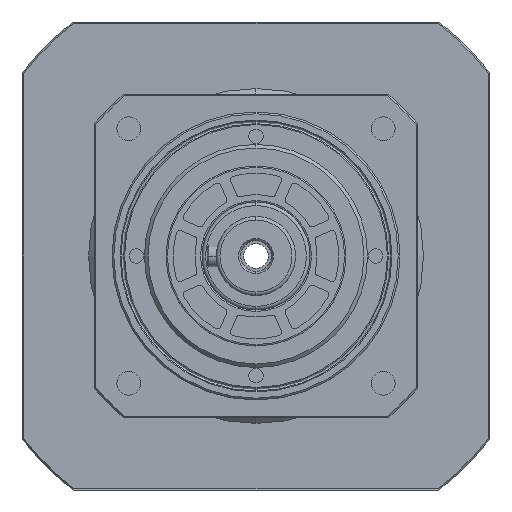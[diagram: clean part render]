
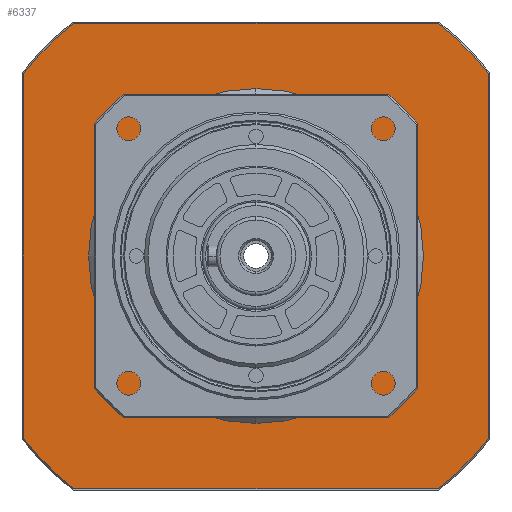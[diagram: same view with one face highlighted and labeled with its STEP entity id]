
A CAD part, left-side view. The second image highlights one B-rep face of the part: STEP entity #6337.
In plain terms, the highlighted planar face has unit normal (-1, 0, 0).
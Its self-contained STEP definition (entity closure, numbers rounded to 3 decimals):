
#976 = FACE_OUTER_BOUND ( 'NONE', #9127, .T. ) ;
#983 = FACE_BOUND ( 'NONE', #8882, .T. ) ;
#1189 = DIRECTION ( 'NONE',  ( 0., 0., -1. ) ) ;
#1190 = DIRECTION ( 'NONE',  ( -1., 0., 0. ) ) ;
#1196 = CARTESIAN_POINT ( 'NONE',  ( 125.175, 2.422, 0. ) ) ;
#1200 = DIRECTION ( 'NONE',  ( 0., -1., 0. ) ) ;
#1216 = CARTESIAN_POINT ( 'NONE',  ( 125.175, 2.422, 0. ) ) ;
#1219 = DIRECTION ( 'NONE',  ( -1., 0., 0. ) ) ;
#1222 = DIRECTION ( 'NONE',  ( 0., 0., -1. ) ) ;
#1248 = CARTESIAN_POINT ( 'NONE',  ( 125.175, 41.422, 64.6 ) ) ;
#1251 = DIRECTION ( 'NONE',  ( 0., 1., 0. ) ) ;
#1274 = DIRECTION ( 'NONE',  ( -1., 0., 0. ) ) ;
#1275 = CARTESIAN_POINT ( 'NONE',  ( 125.175, 41.422, -64.6 ) ) ;
#1276 = CARTESIAN_POINT ( 'NONE',  ( 125.175, 2.422, 0. ) ) ;
#1324 = DIRECTION ( 'NONE',  ( 0., 0., 1. ) ) ;
#1325 = CARTESIAN_POINT ( 'NONE',  ( 125.175, -62.178, 0. ) ) ;
#1357 = DIRECTION ( 'NONE',  ( 0., 0., -1. ) ) ;
#1506 = DIRECTION ( 'NONE',  ( 0., 0., -1. ) ) ;
#1507 = DIRECTION ( 'NONE',  ( 1., 0., 0. ) ) ;
#1513 = CARTESIAN_POINT ( 'NONE',  ( 125.175, 2.422, 0. ) ) ;
#1518 = DIRECTION ( 'NONE',  ( 0., 0., -1. ) ) ;
#1521 = CARTESIAN_POINT ( 'NONE',  ( 125.175, 67.022, 0. ) ) ;
#1777 = DIRECTION ( 'NONE',  ( -1., 0., 0. ) ) ;
#1778 = CARTESIAN_POINT ( 'NONE',  ( 125.175, 2.422, 0. ) ) ;
#1785 = DIRECTION ( 'NONE',  ( 0., 0., -1. ) ) ;
#2354 = DIRECTION ( 'NONE',  ( 0., 0., -1. ) ) ;
#2356 = DIRECTION ( 'NONE',  ( 1., 0., 0. ) ) ;
#2357 = CARTESIAN_POINT ( 'NONE',  ( 125.175, 2.422, 0. ) ) ;
#4237 = AXIS2_PLACEMENT_3D ( 'NONE', #1513, #1507, #1506 ) ;
#4241 = AXIS2_PLACEMENT_3D ( 'NONE', #1216, #1219, #1222 ) ;
#4242 = AXIS2_PLACEMENT_3D ( 'NONE', #1276, #1274, #1357 ) ;
#4247 = AXIS2_PLACEMENT_3D ( 'NONE', #1778, #1777, #1785 ) ;
#4249 = AXIS2_PLACEMENT_3D ( 'NONE', #1196, #1190, #1189 ) ;
#4677 = AXIS2_PLACEMENT_3D ( 'NONE', #2357, #2356, #2354 ) ;
#5001 = PLANE ( 'NONE',  #12150 ) ;
#5006 = CARTESIAN_POINT ( 'NONE',  ( 125.175, 41.422, 0. ) ) ;
#5007 = DIRECTION ( 'NONE',  ( 1., 0., 0. ) ) ;
#5008 = DIRECTION ( 'NONE',  ( 0., 0., -1. ) ) ;
#5266 = CARTESIAN_POINT ( 'NONE',  ( 125.175, 67.022, 50.668 ) ) ;
#5891 = VERTEX_POINT ( 'NONE', #5266 ) ;
#6227 = CIRCLE ( 'NONE', #4247, 82.1 ) ;
#6231 = CIRCLE ( 'NONE', #4249, 82.1 ) ;
#6235 = VECTOR ( 'NONE', #1200, 1000. ) ;
#6236 = LINE ( 'NONE', #1275, #6235 ) ;
#6241 = VECTOR ( 'NONE', #1251, 1000. ) ;
#6246 = LINE ( 'NONE', #1248, #6241 ) ;
#6247 = CIRCLE ( 'NONE', #4241, 82.1 ) ;
#6251 = LINE ( 'NONE', #1325, #6252 ) ;
#6252 = VECTOR ( 'NONE', #1324, 1000. ) ;
#6254 = CIRCLE ( 'NONE', #4237, 39.4 ) ;
#6255 = VECTOR ( 'NONE', #1518, 1000. ) ;
#6257 = LINE ( 'NONE', #1521, #6255 ) ;
#6263 = CIRCLE ( 'NONE', #4242, 82.1 ) ;
#6337 = ADVANCED_FACE ( 'NONE', ( #983, #976 ), #5001, .F. ) ;
#6930 = EDGE_CURVE ( 'NONE', #5891, #9986, #6257, .T. ) ;
#6931 = EDGE_CURVE ( 'NONE', #9829, #9786, #6254, .T. ) ;
#6935 = EDGE_CURVE ( 'NONE', #10000, #9784, #6263, .T. ) ;
#6938 = EDGE_CURVE ( 'NONE', #9784, #9826, #6251, .T. ) ;
#6942 = EDGE_CURVE ( 'NONE', #9826, #9821, #6247, .T. ) ;
#6945 = EDGE_CURVE ( 'NONE', #9821, #9799, #6246, .T. ) ;
#6947 = EDGE_CURVE ( 'NONE', #9928, #10000, #6236, .T. ) ;
#6948 = EDGE_CURVE ( 'NONE', #9799, #5891, #6231, .T. ) ;
#6949 = EDGE_CURVE ( 'NONE', #9986, #9928, #6227, .T. ) ;
#8682 = ORIENTED_EDGE ( 'NONE', *, *, #6945, .T. ) ;
#8683 = ORIENTED_EDGE ( 'NONE', *, *, #6942, .T. ) ;
#8684 = ORIENTED_EDGE ( 'NONE', *, *, #6948, .T. ) ;
#8685 = ORIENTED_EDGE ( 'NONE', *, *, #6938, .T. ) ;
#8686 = ORIENTED_EDGE ( 'NONE', *, *, #6949, .T. ) ;
#8687 = ORIENTED_EDGE ( 'NONE', *, *, #6935, .T. ) ;
#8688 = ORIENTED_EDGE ( 'NONE', *, *, #6947, .T. ) ;
#8689 = ORIENTED_EDGE ( 'NONE', *, *, #6931, .T. ) ;
#8690 = ORIENTED_EDGE ( 'NONE', *, *, #9521, .T. ) ;
#8692 = ORIENTED_EDGE ( 'NONE', *, *, #6930, .T. ) ;
#8882 = EDGE_LOOP ( 'NONE', ( #8690, #8689 ) ) ;
#9127 = EDGE_LOOP ( 'NONE', ( #8692, #8686, #8688, #8687, #8685, #8683, #8682, #8684 ) ) ;
#9521 = EDGE_CURVE ( 'NONE', #9786, #9829, #11140, .T. ) ;
#9784 = VERTEX_POINT ( 'NONE', #10187 ) ;
#9786 = VERTEX_POINT ( 'NONE', #10180 ) ;
#9799 = VERTEX_POINT ( 'NONE', #10226 ) ;
#9821 = VERTEX_POINT ( 'NONE', #10164 ) ;
#9826 = VERTEX_POINT ( 'NONE', #10159 ) ;
#9829 = VERTEX_POINT ( 'NONE', #10686 ) ;
#9928 = VERTEX_POINT ( 'NONE', #10580 ) ;
#9986 = VERTEX_POINT ( 'NONE', #10375 ) ;
#10000 = VERTEX_POINT ( 'NONE', #10486 ) ;
#10159 = CARTESIAN_POINT ( 'NONE',  ( 125.175, -62.178, 50.668 ) ) ;
#10164 = CARTESIAN_POINT ( 'NONE',  ( 125.175, -48.246, 64.6 ) ) ;
#10180 = CARTESIAN_POINT ( 'NONE',  ( 125.175, 2.422, 39.4 ) ) ;
#10187 = CARTESIAN_POINT ( 'NONE',  ( 125.175, -62.178, -50.668 ) ) ;
#10226 = CARTESIAN_POINT ( 'NONE',  ( 125.175, 53.09, 64.6 ) ) ;
#10375 = CARTESIAN_POINT ( 'NONE',  ( 125.175, 67.022, -50.668 ) ) ;
#10486 = CARTESIAN_POINT ( 'NONE',  ( 125.175, -48.246, -64.6 ) ) ;
#10580 = CARTESIAN_POINT ( 'NONE',  ( 125.175, 53.09, -64.6 ) ) ;
#10686 = CARTESIAN_POINT ( 'NONE',  ( 125.175, 2.422, -39.4 ) ) ;
#11140 = CIRCLE ( 'NONE', #4677, 39.4 ) ;
#12150 = AXIS2_PLACEMENT_3D ( 'NONE', #5006, #5007, #5008 ) ;
